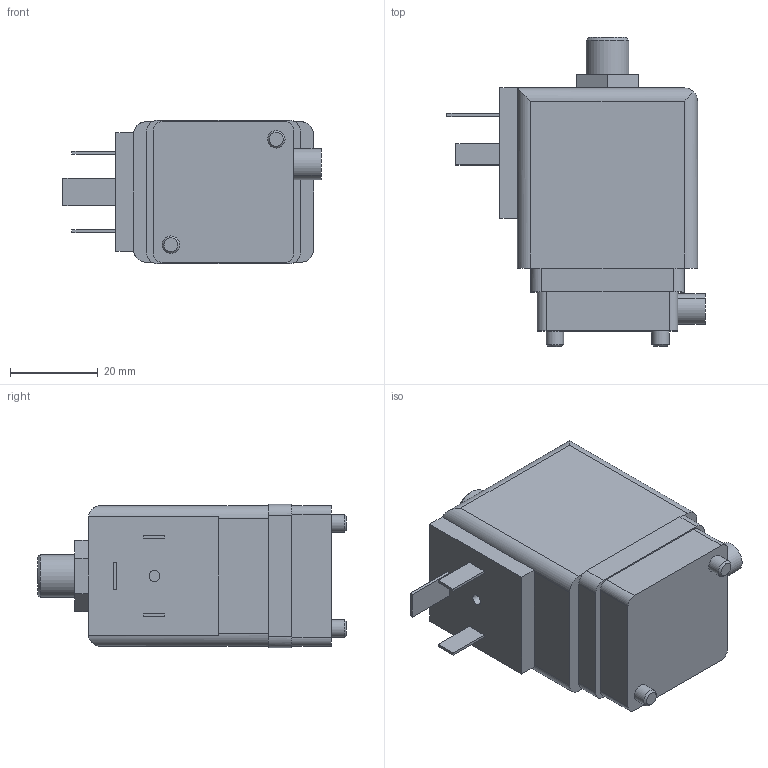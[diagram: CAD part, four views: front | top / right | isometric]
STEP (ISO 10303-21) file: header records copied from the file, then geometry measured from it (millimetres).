
FILE_DESCRIPTION(/* description */ ('STEP AP214'),/* implementation_level */ '2;1');
FILE_NAME(/* name */ '6014-126396-3_2-way_Solenoid_Valve_direct-acting',/* time_stamp */ '2024-08-12T13:26:59+02:00',/* author */ ('License CC BY-ND 4.0'),/* organization */ ('CADENAS'),/* preprocessor_version */ 'ST-DEVELOPER v19.3',/* originating_system */ 'PARTsolutions',/* authorisation */ ' ');
FILE_SCHEMA (('AUTOMOTIVE_DESIGN {1 0 10303 214 3 1 1}'));
Length unit declared in the file: millimetre
Products named in the file (1): 6014-126396-3/2-way Solenoid Valve direct-acting
Bounding box: 58.75 x 70.3 x 32.6 mm (x, y, z)
Volume: 73240.1 mm3; surface area: 11650.6 mm2
Topology: 1 solids, 1 shells, 78 faces, 190 edges, 124 vertices
Faces by surface type: plane 54, cylinder 21, cone 3
Full cylindrical faces by diameter (mm): 2.46 x1, 4 x2, 9.728 x1
Entity records: 2787 total; most frequent: DIRECTION 385, CARTESIAN_POINT 380, ORIENTED_EDGE 360, EDGE_CURVE 180, LINE 133, VECTOR 133, AXIS2_PLACEMENT_3D 126, VERTEX_POINT 121
